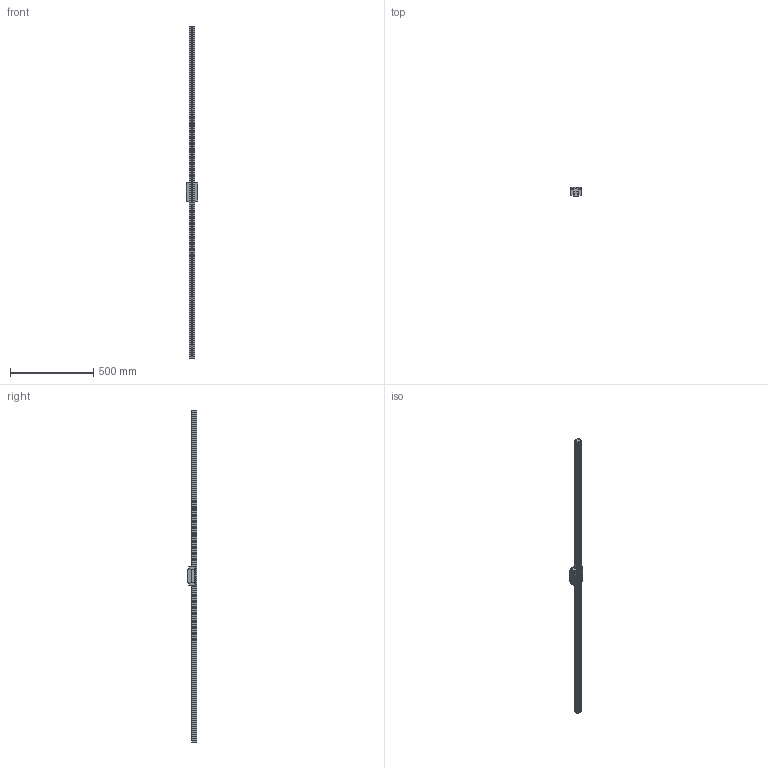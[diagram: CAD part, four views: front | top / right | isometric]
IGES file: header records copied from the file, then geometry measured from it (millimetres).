
Start section: SolidWorks IGES file using analytic representation for surfaces
Global section: file name: \\PSSILO\catalogs\Transept Giltec\RGB35 - PGB35\Cache\{53BC3627-7DA7-427B-A0A5-15065D10076F}\D17776A3-1F1D-417C-931B-ECC635DE56A2.IGS; native system: SolidWorks 2018; preprocessor: SolidWorks 2018; author: partstream; date: 180129.115605; units: millimetre
Bounding box: 70 x 55 x 2000 mm (x, y, z)
Surface area: 321553.7 mm2 (no closed solid volume)
Topology: 0 solids, 0 shells, 607 faces, 6899 edges, 6899 vertices
Faces by surface type: bspline 487, revolution 120
